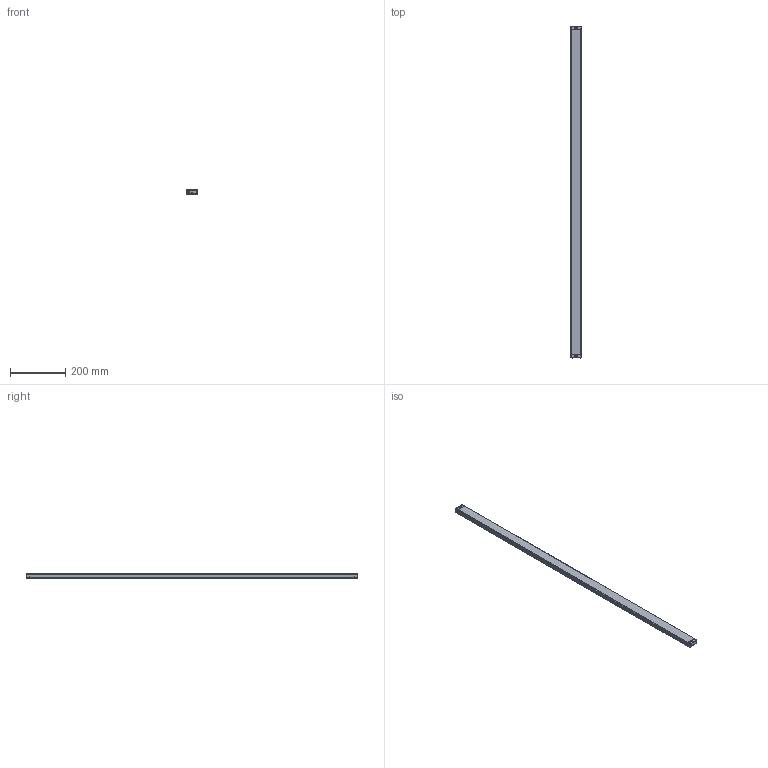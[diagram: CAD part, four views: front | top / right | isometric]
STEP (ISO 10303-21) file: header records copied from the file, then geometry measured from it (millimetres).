
FILE_DESCRIPTION((''),'2;1');
FILE_NAME('EB15--3610_ASM','2021-07-22T11:32:00',('18720616900'),(''),'CREO PARAMETRIC BY PTC INC, 2019010','CREO PARAMETRIC BY PTC INC, 2019010','');
FILE_SCHEMA(('CONFIG_CONTROL_DESIGN'));
Length unit declared in the file: millimetre
Products named in the file (6): EB15-00; EB15-000; EB15-0003; EB15-0004; ST-3-12; EB15--3610_ASM
Assembly tree (12 placements, depth 2):
  EB15--3610_ASM
    EB15-00
    EB15-000
    EB15-0003
    EB15-0004
    ST-3-12  x8
Bounding box: 39.15 x 1205 x 15.8 mm (x, y, z)
Volume: 724407.4 mm3; surface area: 174523.6 mm2
Topology: 12 solids, 12 shells, 827 faces, 2188 edges, 1368 vertices
Faces by surface type: plane 242, bspline 188, cone 176, cylinder 165, torus 40, sphere 16
Entity records: 16044 total; most frequent: CARTESIAN_POINT 7660, ORIENTED_EDGE 1804, DIRECTION 1603, EDGE_CURVE 902, AXIS2_PLACEMENT_3D 577, VERTEX_POINT 563, VECTOR 449, LINE 449
